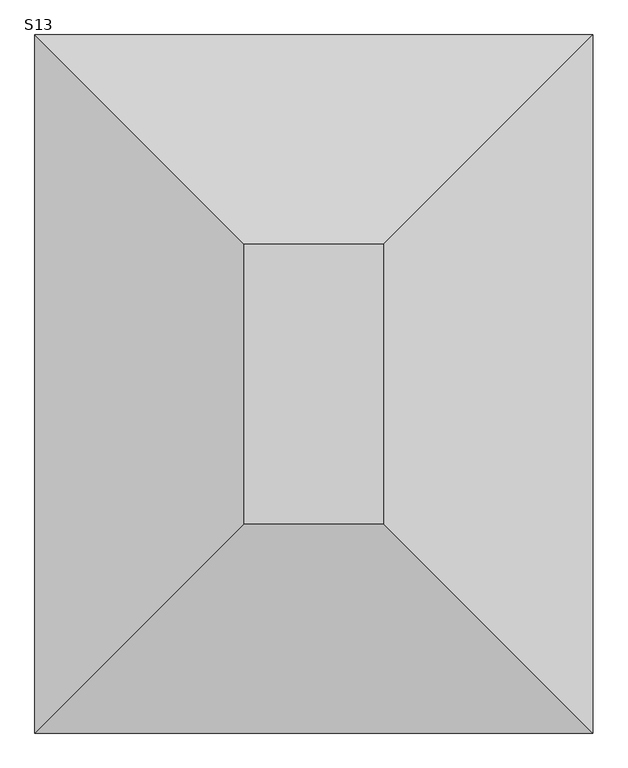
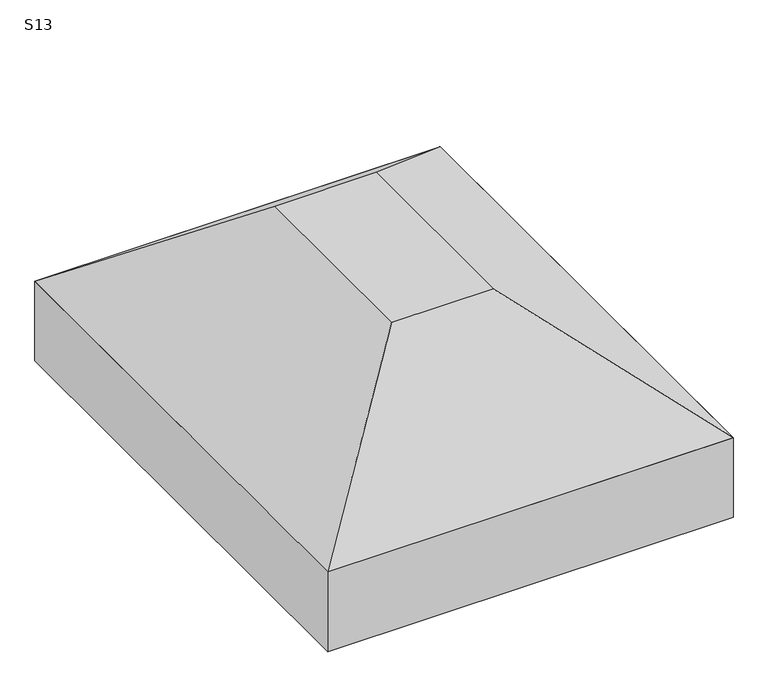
"""IFC4 building model written with IfcOpenShell, lengths in millimetres: fastener geometry, TQS - Sapata : S13."""

from ifc_helpers import new_model, si_unit, frame, origin, place, context, project, spatial, polyline, outline, extrude, faceted_brep, source, transform, mapped, element, save


def s13_e8522c43(model_context):
    return source(origin(), model_context, "Body", "SolidModel", [
        faceted_brep([(-50.0, 100.0, 0.0), (-350.0, 100.0, 0.0), (-350.0, -500.0, 0.0), (-50.0, -500.0, 0.0), (400.0, 550.0, -350.0), (400.0, -950.0, -350.0), (-800.0, -950.0, -350.0), (-800.0, 550.0, -350.0)], [[[0, 1, 2, 3]], [[4, 5, 6, 7]], [[4, 7, 1, 0]], [[7, 6, 2, 1]], [[6, 5, 3, 2]], [[5, 4, 0, 3]]]),
        extrude(outline(polyline([(400.0, 550.0), (400.0, -950.0), (-800.0, -950.0), (-800.0, 550.0), (400.0, 550.0)])), frame((0.0, 0.0, -600.0), z_axis=(0.0, 0.0, 1.0), x_axis=(1.0, 0.0, 0.0)), (0.0, 0.0, 1.0), 250.0),
    ])


if __name__ == "__main__":
    model = new_model("IFC4")
    model_context = context("Model", 3, world=origin())
    ifc_project = project(units=[si_unit("LENGTHUNIT", "METRE", prefix="MILLI")], contexts=[model_context])
    site = spatial("IfcSite", under=ifc_project)
    building = spatial("IfcBuilding", under=site)
    placement = place(None, origin())
    s13_shape = s13_e8522c43(model_context)
    element("IfcFastener", 1, ObjectType="TQS - Sapata : S13", at=placement, inside=building, context=model_context, shape_type="MappedRepresentation", body=[
        mapped(s13_shape, transform((0.0, 0.0, 0.0), x_axis=(1.0, 0.0, 0.0), y_axis=(0.0, 1.0, 0.0), z_axis=(0.0, 0.0, 1.0))),
    ])
    save(model, "model.ifc")
